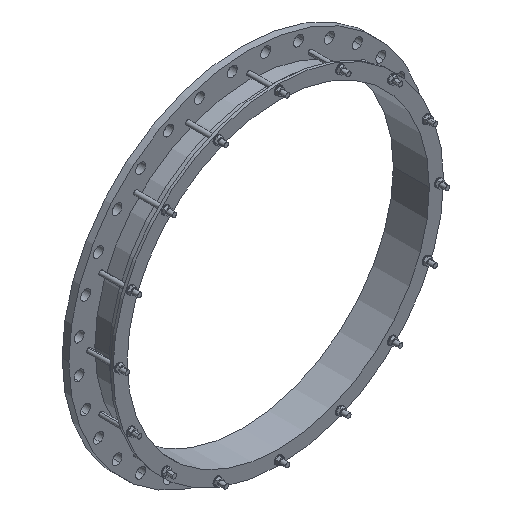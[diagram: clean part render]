
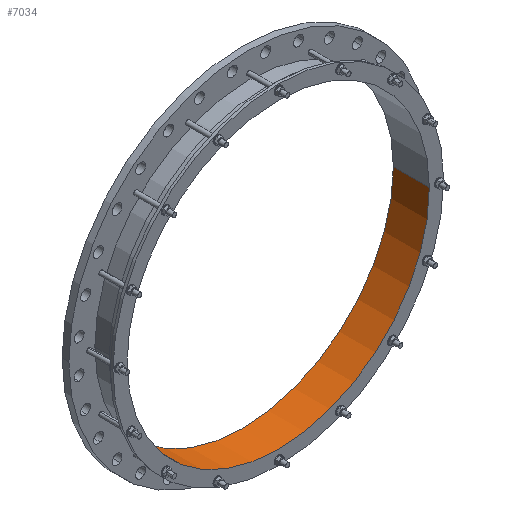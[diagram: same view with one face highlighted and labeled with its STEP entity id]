
A CAD part, isometric view. The second image highlights one B-rep face of the part: STEP entity #7034.
In plain terms, the highlighted cylindrical face has radius 562.25 mm (diameter 1124.5 mm), a partial arc.
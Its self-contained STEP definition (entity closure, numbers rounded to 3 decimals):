
#7=CARTESIAN_POINT('',(0.,25.,0.));
#8=DIRECTION('',(0.,1.,0.));
#9=DIRECTION('',(1.,0.,0.));
#10=AXIS2_PLACEMENT_3D('',#7,#8,#9);
#1917=CARTESIAN_POINT('',(0.,-109.,0.));
#1918=DIRECTION('',(0.,1.,0.));
#1919=DIRECTION('',(1.,0.,0.));
#1920=AXIS2_PLACEMENT_3D('',#1917,#1918,#1919);
#1922=DIRECTION('',(0.,1.,0.));
#1923=VECTOR('',#1922,134.);
#1924=CARTESIAN_POINT('',(562.25,-109.,0.));
#1925=LINE('',#1924,#1923);
#1926=DIRECTION('',(0.,1.,0.));
#1927=VECTOR('',#1926,134.);
#1928=CARTESIAN_POINT('',(-562.25,-109.,0.));
#1929=LINE('',#1928,#1927);
#4876=CARTESIAN_POINT('',(562.25,-109.,0.));
#4877=CARTESIAN_POINT('',(562.25,25.,0.));
#4878=VERTEX_POINT('',#4876);
#4879=VERTEX_POINT('',#4877);
#4888=CARTESIAN_POINT('',(-562.25,-109.,0.));
#4889=CARTESIAN_POINT('',(-562.25,25.,0.));
#4890=VERTEX_POINT('',#4888);
#4891=VERTEX_POINT('',#4889);
#7021=CARTESIAN_POINT('',(0.,-115.7,0.));
#7022=DIRECTION('',(0.,1.,0.));
#7023=DIRECTION('',(-1.,0.,0.));
#7024=AXIS2_PLACEMENT_3D('',#7021,#7022,#7023);
#7025=CYLINDRICAL_SURFACE('',#7024,562.25);
#7027=ORIENTED_EDGE('',*,*,#7026,.F.);
#7028=ORIENTED_EDGE('',*,*,#6920,.T.);
#7030=ORIENTED_EDGE('',*,*,#7029,.T.);
#7031=ORIENTED_EDGE('',*,*,#5981,.F.);
#7032=EDGE_LOOP('',(#7027,#7028,#7030,#7031));
#7033=FACE_OUTER_BOUND('',#7032,.F.);
#7034=ADVANCED_FACE('',(#7033),#7025,.F.);
#11=CIRCLE('',#10,562.25);
#1921=CIRCLE('',#1920,562.25);
#5981=EDGE_CURVE('',#4879,#4891,#11,.T.);
#6920=EDGE_CURVE('',#4878,#4890,#1921,.T.);
#7026=EDGE_CURVE('',#4878,#4879,#1925,.T.);
#7029=EDGE_CURVE('',#4890,#4891,#1929,.T.);
